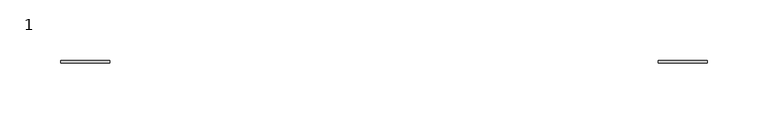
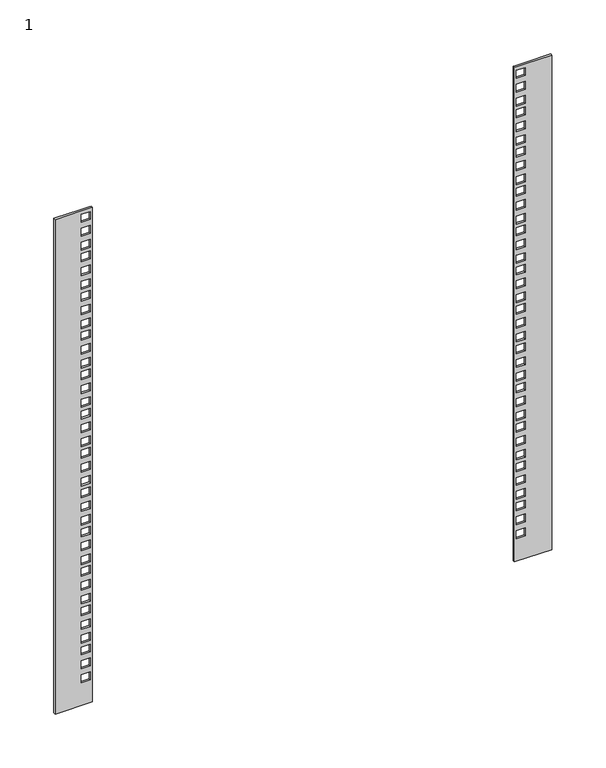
"""IFC4 building model written with IfcOpenShell, lengths in millimetres: proxy geometry, 1 : 12U 450мм стеклянная дверь."""

from ifc_helpers import new_model, si_unit, origin, place, context, project, spatial, faceted_brep, source, transform, mapped, element, save


def proxy_1_a4bd9ef0(model_context):
    return source(origin(), model_context, "Body", "Brep", [
        faceted_brep([(225.3, -177.6777479, 579.4675), (225.3, -179.6777479, 579.4675), (227.55, -179.6777479, 579.4675), (237.05, -179.6777479, 579.4675), (265.3, -179.6777479, 579.4675), (265.3, -177.6777479, 579.4675), (237.05, -177.6777479, 579.4675), (227.55, -177.6777479, 579.4675), (265.3, -177.6777479, 20.4675), (265.3, -179.6777479, 20.4675), (225.3, -179.6777479, 20.4675), (225.3, -177.6777479, 20.4675), (227.55, -179.6777479, 55.0175), (237.05, -179.6777479, 55.0175), (237.05, -179.6777479, 46.0675), (227.55, -179.6777479, 46.0675), (227.55, -179.6777479, 70.6675), (237.05, -179.6777479, 70.6675), (237.05, -179.6777479, 61.7175), (227.55, -179.6777479, 61.7175), (227.55, -179.6777479, 86.3175), (237.05, -179.6777479, 86.3175), (237.05, -179.6777479, 77.3675), (227.55, -179.6777479, 77.3675), (237.05, -179.6777479, 99.4675), (237.05, -179.6777479, 90.5175), (227.55, -179.6777479, 90.5175), (227.55, -179.6777479, 99.4675), (237.05, -179.6777479, 115.1175), (237.05, -179.6777479, 106.1675), (227.55, -179.6777479, 106.1675), (227.55, -179.6777479, 115.1175), (237.05, -179.6777479, 130.7675), (237.05, -179.6777479, 121.8175), (227.55, -179.6777479, 121.8175), (227.55, -179.6777479, 130.7675), (237.05, -179.6777479, 143.9175), (237.05, -179.6777479, 134.9675), (227.55, -179.6777479, 134.9675), (227.55, -179.6777479, 143.9175), (237.05, -179.6777479, 159.5675), (237.05, -179.6777479, 150.6175), (227.55, -179.6777479, 150.6175), (227.55, -179.6777479, 159.5675), (237.05, -179.6777479, 175.2175), (237.05, -179.6777479, 166.2675), (227.55, -179.6777479, 166.2675), (227.55, -179.6777479, 175.2175), (237.05, -179.6777479, 188.3675), (237.05, -179.6777479, 179.4175), (227.55, -179.6777479, 179.4175), (227.55, -179.6777479, 188.3675), (237.05, -179.6777479, 204.0175), (237.05, -179.6777479, 195.0675), (227.55, -179.6777479, 195.0675), (227.55, -179.6777479, 204.0175), (237.05, -179.6777479, 219.6675), (237.05, -179.6777479, 210.7175), (227.55, -179.6777479, 210.7175), (227.55, -179.6777479, 219.6675), (237.05, -179.6777479, 232.8175), (237.05, -179.6777479, 223.8675), (227.55, -179.6777479, 223.8675), (227.55, -179.6777479, 232.8175), (237.05, -179.6777479, 248.4675), (237.05, -179.6777479, 239.5175), (227.55, -179.6777479, 239.5175), (227.55, -179.6777479, 248.4675), (237.05, -179.6777479, 264.1175), (237.05, -179.6777479, 255.1675), (227.55, -179.6777479, 255.1675), (227.55, -179.6777479, 264.1175), (237.05, -179.6777479, 277.2675), (237.05, -179.6777479, 268.3175), (227.55, -179.6777479, 268.3175), (227.55, -179.6777479, 277.2675), (237.05, -179.6777479, 292.9175), (237.05, -179.6777479, 283.9675), (227.55, -179.6777479, 283.9675), (227.55, -179.6777479, 292.9175), (237.05, -179.6777479, 308.5675), (237.05, -179.6777479, 299.6175), (227.55, -179.6777479, 299.6175), (227.55, -179.6777479, 308.5675), (237.05, -179.6777479, 321.7175), (237.05, -179.6777479, 312.7675), (227.55, -179.6777479, 312.7675), (227.55, -179.6777479, 321.7175), (237.05, -179.6777479, 337.3675), (237.05, -179.6777479, 328.4175), (227.55, -179.6777479, 328.4175), (227.55, -179.6777479, 337.3675), (237.05, -179.6777479, 353.0175), (237.05, -179.6777479, 344.0675), (227.55, -179.6777479, 344.0675), (227.55, -179.6777479, 353.0175), (237.05, -179.6777479, 366.1675), (237.05, -179.6777479, 357.2175), (227.55, -179.6777479, 357.2175), (227.55, -179.6777479, 366.1675), (237.05, -179.6777479, 381.8175), (237.05, -179.6777479, 372.8675), (227.55, -179.6777479, 372.8675), (227.55, -179.6777479, 381.8175), (237.05, -179.6777479, 397.4675), (237.05, -179.6777479, 388.5175), (227.55, -179.6777479, 388.5175), (227.55, -179.6777479, 397.4675), (237.05, -179.6777479, 410.6175), (237.05, -179.6777479, 401.6675), (227.55, -179.6777479, 401.6675), (227.55, -179.6777479, 410.6175), (237.05, -179.6777479, 426.2675), (237.05, -179.6777479, 417.3175), (227.55, -179.6777479, 417.3175), (227.55, -179.6777479, 426.2675), (237.05, -179.6777479, 441.9175), (237.05, -179.6777479, 432.9675), (227.55, -179.6777479, 432.9675), (227.55, -179.6777479, 441.9175), (237.05, -179.6777479, 455.0675), (237.05, -179.6777479, 446.1175), (227.55, -179.6777479, 446.1175), (227.55, -179.6777479, 455.0675), (237.05, -179.6777479, 470.7175), (237.05, -179.6777479, 461.7675), (227.55, -179.6777479, 461.7675), (227.55, -179.6777479, 470.7175), (237.05, -179.6777479, 486.3675), (237.05, -179.6777479, 477.4175), (227.55, -179.6777479, 477.4175), (227.55, -179.6777479, 486.3675), (237.05, -179.6777479, 499.5175), (237.05, -179.6777479, 490.5675), (227.55, -179.6777479, 490.5675), (227.55, -179.6777479, 499.5175), (237.05, -179.6777479, 515.1675), (237.05, -179.6777479, 506.2175), (227.55, -179.6777479, 506.2175), (227.55, -179.6777479, 515.1675), (237.05, -179.6777479, 530.8175), (237.05, -179.6777479, 521.8675), (227.55, -179.6777479, 521.8675), (227.55, -179.6777479, 530.8175), (237.05, -179.6777479, 543.9675), (237.05, -179.6777479, 535.0175), (227.55, -179.6777479, 535.0175), (227.55, -179.6777479, 543.9675), (237.05, -179.6777479, 559.6175), (237.05, -179.6777479, 550.6675), (227.55, -179.6777479, 550.6675), (227.55, -179.6777479, 559.6175), (237.05, -179.6777479, 575.2675), (237.05, -179.6777479, 566.3175), (227.55, -179.6777479, 566.3175), (227.55, -179.6777479, 575.2675), (237.05, -177.6777479, 55.0175), (227.55, -177.6777479, 55.0175), (227.55, -177.6777479, 46.0675), (237.05, -177.6777479, 46.0675), (237.05, -177.6777479, 70.6675), (227.55, -177.6777479, 70.6675), (227.55, -177.6777479, 61.7175), (237.05, -177.6777479, 61.7175), (237.05, -177.6777479, 86.3175), (227.55, -177.6777479, 86.3175), (227.55, -177.6777479, 77.3675), (237.05, -177.6777479, 77.3675), (237.05, -177.6777479, 90.5175), (237.05, -177.6777479, 99.4675), (227.55, -177.6777479, 99.4675), (227.55, -177.6777479, 90.5175), (237.05, -177.6777479, 106.1675), (237.05, -177.6777479, 115.1175), (227.55, -177.6777479, 115.1175), (227.55, -177.6777479, 106.1675), (237.05, -177.6777479, 121.8175), (237.05, -177.6777479, 130.7675), (227.55, -177.6777479, 130.7675), (227.55, -177.6777479, 121.8175), (237.05, -177.6777479, 134.9675), (237.05, -177.6777479, 143.9175), (227.55, -177.6777479, 143.9175), (227.55, -177.6777479, 134.9675), (237.05, -177.6777479, 150.6175), (237.05, -177.6777479, 159.5675), (227.55, -177.6777479, 159.5675), (227.55, -177.6777479, 150.6175), (237.05, -177.6777479, 166.2675), (237.05, -177.6777479, 175.2175), (227.55, -177.6777479, 175.2175), (227.55, -177.6777479, 166.2675), (237.05, -177.6777479, 179.4175), (237.05, -177.6777479, 188.3675), (227.55, -177.6777479, 188.3675), (227.55, -177.6777479, 179.4175), (237.05, -177.6777479, 195.0675), (237.05, -177.6777479, 204.0175), (227.55, -177.6777479, 204.0175), (227.55, -177.6777479, 195.0675), (237.05, -177.6777479, 210.7175), (237.05, -177.6777479, 219.6675), (227.55, -177.6777479, 219.6675), (227.55, -177.6777479, 210.7175), (237.05, -177.6777479, 223.8675), (237.05, -177.6777479, 232.8175), (227.55, -177.6777479, 232.8175), (227.55, -177.6777479, 223.8675), (237.05, -177.6777479, 239.5175), (237.05, -177.6777479, 248.4675), (227.55, -177.6777479, 248.4675), (227.55, -177.6777479, 239.5175), (237.05, -177.6777479, 255.1675), (237.05, -177.6777479, 264.1175), (227.55, -177.6777479, 264.1175), (227.55, -177.6777479, 255.1675), (237.05, -177.6777479, 268.3175), (237.05, -177.6777479, 277.2675), (227.55, -177.6777479, 277.2675), (227.55, -177.6777479, 268.3175), (237.05, -177.6777479, 283.9675), (237.05, -177.6777479, 292.9175), (227.55, -177.6777479, 292.9175), (227.55, -177.6777479, 283.9675), (237.05, -177.6777479, 299.6175), (237.05, -177.6777479, 308.5675), (227.55, -177.6777479, 308.5675), (227.55, -177.6777479, 299.6175), (237.05, -177.6777479, 312.7675), (237.05, -177.6777479, 321.7175), (227.55, -177.6777479, 321.7175), (227.55, -177.6777479, 312.7675), (237.05, -177.6777479, 328.4175), (237.05, -177.6777479, 337.3675), (227.55, -177.6777479, 337.3675), (227.55, -177.6777479, 328.4175), (237.05, -177.6777479, 344.0675), (237.05, -177.6777479, 353.0175), (227.55, -177.6777479, 353.0175), (227.55, -177.6777479, 344.0675), (237.05, -177.6777479, 357.2175), (237.05, -177.6777479, 366.1675), (227.55, -177.6777479, 366.1675), (227.55, -177.6777479, 357.2175), (237.05, -177.6777479, 372.8675), (237.05, -177.6777479, 381.8175), (227.55, -177.6777479, 381.8175), (227.55, -177.6777479, 372.8675), (237.05, -177.6777479, 388.5175), (237.05, -177.6777479, 397.4675), (227.55, -177.6777479, 397.4675), (227.55, -177.6777479, 388.5175), (237.05, -177.6777479, 401.6675), (237.05, -177.6777479, 410.6175), (227.55, -177.6777479, 410.6175), (227.55, -177.6777479, 401.6675), (237.05, -177.6777479, 417.3175), (237.05, -177.6777479, 426.2675), (227.55, -177.6777479, 426.2675), (227.55, -177.6777479, 417.3175), (237.05, -177.6777479, 432.9675), (237.05, -177.6777479, 441.9175), (227.55, -177.6777479, 441.9175), (227.55, -177.6777479, 432.9675), (237.05, -177.6777479, 446.1175), (237.05, -177.6777479, 455.0675), (227.55, -177.6777479, 455.0675), (227.55, -177.6777479, 446.1175), (237.05, -177.6777479, 461.7675), (237.05, -177.6777479, 470.7175), (227.55, -177.6777479, 470.7175), (227.55, -177.6777479, 461.7675), (237.05, -177.6777479, 477.4175), (237.05, -177.6777479, 486.3675), (227.55, -177.6777479, 486.3675), (227.55, -177.6777479, 477.4175), (237.05, -177.6777479, 490.5675), (237.05, -177.6777479, 499.5175), (227.55, -177.6777479, 499.5175), (227.55, -177.6777479, 490.5675), (237.05, -177.6777479, 506.2175), (237.05, -177.6777479, 515.1675), (227.55, -177.6777479, 515.1675), (227.55, -177.6777479, 506.2175), (237.05, -177.6777479, 521.8675), (237.05, -177.6777479, 530.8175), (227.55, -177.6777479, 530.8175), (227.55, -177.6777479, 521.8675), (237.05, -177.6777479, 535.0175), (237.05, -177.6777479, 543.9675), (227.55, -177.6777479, 543.9675), (227.55, -177.6777479, 535.0175), (237.05, -177.6777479, 550.6675), (237.05, -177.6777479, 559.6175), (227.55, -177.6777479, 559.6175), (227.55, -177.6777479, 550.6675), (237.05, -177.6777479, 566.3175), (237.05, -177.6777479, 575.2675), (227.55, -177.6777479, 575.2675), (227.55, -177.6777479, 566.3175)], [[[0, 1, 2, 3, 4, 5, 6, 7]], [[8, 9, 10, 11]], [[5, 4, 9, 8]], [[10, 9, 4, 3, 2, 1], [12, 13, 14, 15], [16, 17, 18, 19], [20, 21, 22, 23], [24, 25, 26, 27], [28, 29, 30, 31], [32, 33, 34, 35], [36, 37, 38, 39], [40, 41, 42, 43], [44, 45, 46, 47], [48, 49, 50, 51], [52, 53, 54, 55], [56, 57, 58, 59], [60, 61, 62, 63], [64, 65, 66, 67], [68, 69, 70, 71], [72, 73, 74, 75], [76, 77, 78, 79], [80, 81, 82, 83], [84, 85, 86, 87], [88, 89, 90, 91], [92, 93, 94, 95], [96, 97, 98, 99], [100, 101, 102, 103], [104, 105, 106, 107], [108, 109, 110, 111], [112, 113, 114, 115], [116, 117, 118, 119], [120, 121, 122, 123], [124, 125, 126, 127], [128, 129, 130, 131], [132, 133, 134, 135], [136, 137, 138, 139], [140, 141, 142, 143], [144, 145, 146, 147], [148, 149, 150, 151], [152, 153, 154, 155]], [[1, 0, 11, 10]], [[8, 11, 0, 7, 6, 5], [156, 157, 158, 159], [160, 161, 162, 163], [164, 165, 166, 167], [168, 169, 170, 171], [172, 173, 174, 175], [176, 177, 178, 179], [180, 181, 182, 183], [184, 185, 186, 187], [188, 189, 190, 191], [192, 193, 194, 195], [196, 197, 198, 199], [200, 201, 202, 203], [204, 205, 206, 207], [208, 209, 210, 211], [212, 213, 214, 215], [216, 217, 218, 219], [220, 221, 222, 223], [224, 225, 226, 227], [228, 229, 230, 231], [232, 233, 234, 235], [236, 237, 238, 239], [240, 241, 242, 243], [244, 245, 246, 247], [248, 249, 250, 251], [252, 253, 254, 255], [256, 257, 258, 259], [260, 261, 262, 263], [264, 265, 266, 267], [268, 269, 270, 271], [272, 273, 274, 275], [276, 277, 278, 279], [280, 281, 282, 283], [284, 285, 286, 287], [288, 289, 290, 291], [292, 293, 294, 295], [296, 297, 298, 299]], [[156, 13, 12, 157]], [[157, 12, 15, 158]], [[158, 15, 14, 159]], [[13, 156, 159, 14]], [[160, 17, 16, 161]], [[161, 16, 19, 162]], [[162, 19, 18, 163]], [[17, 160, 163, 18]], [[164, 21, 20, 165]], [[165, 20, 23, 166]], [[166, 23, 22, 167]], [[21, 164, 167, 22]], [[168, 25, 24, 169]], [[25, 168, 171, 26]], [[26, 171, 170, 27]], [[27, 170, 169, 24]], [[172, 29, 28, 173]], [[29, 172, 175, 30]], [[30, 175, 174, 31]], [[31, 174, 173, 28]], [[176, 33, 32, 177]], [[33, 176, 179, 34]], [[34, 179, 178, 35]], [[35, 178, 177, 32]], [[180, 37, 36, 181]], [[37, 180, 183, 38]], [[38, 183, 182, 39]], [[39, 182, 181, 36]], [[184, 41, 40, 185]], [[41, 184, 187, 42]], [[42, 187, 186, 43]], [[43, 186, 185, 40]], [[188, 45, 44, 189]], [[45, 188, 191, 46]], [[46, 191, 190, 47]], [[47, 190, 189, 44]], [[192, 49, 48, 193]], [[49, 192, 195, 50]], [[50, 195, 194, 51]], [[51, 194, 193, 48]], [[196, 53, 52, 197]], [[53, 196, 199, 54]], [[54, 199, 198, 55]], [[55, 198, 197, 52]], [[200, 57, 56, 201]], [[57, 200, 203, 58]], [[58, 203, 202, 59]], [[59, 202, 201, 56]], [[204, 61, 60, 205]], [[61, 204, 207, 62]], [[62, 207, 206, 63]], [[63, 206, 205, 60]], [[208, 65, 64, 209]], [[65, 208, 211, 66]], [[66, 211, 210, 67]], [[67, 210, 209, 64]], [[212, 69, 68, 213]], [[69, 212, 215, 70]], [[70, 215, 214, 71]], [[71, 214, 213, 68]], [[216, 73, 72, 217]], [[73, 216, 219, 74]], [[74, 219, 218, 75]], [[75, 218, 217, 72]], [[220, 77, 76, 221]], [[77, 220, 223, 78]], [[78, 223, 222, 79]], [[79, 222, 221, 76]], [[224, 81, 80, 225]], [[81, 224, 227, 82]], [[82, 227, 226, 83]], [[83, 226, 225, 80]], [[228, 85, 84, 229]], [[85, 228, 231, 86]], [[86, 231, 230, 87]], [[87, 230, 229, 84]], [[232, 89, 88, 233]], [[89, 232, 235, 90]], [[90, 235, 234, 91]], [[91, 234, 233, 88]], [[236, 93, 92, 237]], [[93, 236, 239, 94]], [[94, 239, 238, 95]], [[95, 238, 237, 92]], [[240, 97, 96, 241]], [[97, 240, 243, 98]], [[98, 243, 242, 99]], [[99, 242, 241, 96]], [[244, 101, 100, 245]], [[101, 244, 247, 102]], [[102, 247, 246, 103]], [[103, 246, 245, 100]], [[248, 105, 104, 249]], [[105, 248, 251, 106]], [[106, 251, 250, 107]], [[107, 250, 249, 104]], [[252, 109, 108, 253]], [[109, 252, 255, 110]], [[110, 255, 254, 111]], [[111, 254, 253, 108]], [[256, 113, 112, 257]], [[113, 256, 259, 114]], [[114, 259, 258, 115]], [[115, 258, 257, 112]], [[260, 117, 116, 261]], [[117, 260, 263, 118]], [[118, 263, 262, 119]], [[119, 262, 261, 116]], [[264, 121, 120, 265]], [[121, 264, 267, 122]], [[122, 267, 266, 123]], [[123, 266, 265, 120]], [[268, 125, 124, 269]], [[125, 268, 271, 126]], [[126, 271, 270, 127]], [[127, 270, 269, 124]], [[272, 129, 128, 273]], [[129, 272, 275, 130]], [[130, 275, 274, 131]], [[131, 274, 273, 128]], [[276, 133, 132, 277]], [[133, 276, 279, 134]], [[134, 279, 278, 135]], [[135, 278, 277, 132]], [[280, 137, 136, 281]], [[137, 280, 283, 138]], [[138, 283, 282, 139]], [[139, 282, 281, 136]], [[284, 141, 140, 285]], [[141, 284, 287, 142]], [[142, 287, 286, 143]], [[143, 286, 285, 140]], [[288, 145, 144, 289]], [[145, 288, 291, 146]], [[146, 291, 290, 147]], [[147, 290, 289, 144]], [[292, 149, 148, 293]], [[149, 292, 295, 150]], [[150, 295, 294, 151]], [[151, 294, 293, 148]], [[296, 153, 152, 297]], [[153, 296, 299, 154]], [[154, 299, 298, 155]], [[155, 298, 297, 152]]]),
        faceted_brep([(-265.7, -177.6777479, 579.4675), (-265.7, -179.6777479, 579.4675), (-237.45, -179.6777479, 579.4675), (-227.95, -179.6777479, 579.4675), (-225.7, -179.6777479, 579.4675), (-225.7, -177.6777479, 579.4675), (-227.95, -177.6777479, 579.4675), (-237.45, -177.6777479, 579.4675), (-265.7, -177.6777479, 20.4675), (-225.7, -177.6777479, 20.4675), (-225.7, -179.6777479, 20.4675), (-265.7, -179.6777479, 20.4675), (-237.45, -179.6777479, 55.0175), (-227.95, -179.6777479, 55.0175), (-227.95, -179.6777479, 46.0675), (-237.45, -179.6777479, 46.0675), (-237.45, -179.6777479, 70.6675), (-227.95, -179.6777479, 70.6675), (-227.95, -179.6777479, 61.7175), (-237.45, -179.6777479, 61.7175), (-237.45, -179.6777479, 86.3175), (-227.95, -179.6777479, 86.3175), (-227.95, -179.6777479, 77.3675), (-237.45, -179.6777479, 77.3675), (-237.45, -179.6777479, 90.5175), (-237.45, -179.6777479, 99.4675), (-227.95, -179.6777479, 99.4675), (-227.95, -179.6777479, 90.5175), (-237.45, -179.6777479, 106.1675), (-237.45, -179.6777479, 115.1175), (-227.95, -179.6777479, 115.1175), (-227.95, -179.6777479, 106.1675), (-237.45, -179.6777479, 121.8175), (-237.45, -179.6777479, 130.7675), (-227.95, -179.6777479, 130.7675), (-227.95, -179.6777479, 121.8175), (-237.45, -179.6777479, 134.9675), (-237.45, -179.6777479, 143.9175), (-227.95, -179.6777479, 143.9175), (-227.95, -179.6777479, 134.9675), (-237.45, -179.6777479, 150.6175), (-237.45, -179.6777479, 159.5675), (-227.95, -179.6777479, 159.5675), (-227.95, -179.6777479, 150.6175), (-237.45, -179.6777479, 166.2675), (-237.45, -179.6777479, 175.2175), (-227.95, -179.6777479, 175.2175), (-227.95, -179.6777479, 166.2675), (-237.45, -179.6777479, 179.4175), (-237.45, -179.6777479, 188.3675), (-227.95, -179.6777479, 188.3675), (-227.95, -179.6777479, 179.4175), (-237.45, -179.6777479, 195.0675), (-237.45, -179.6777479, 204.0175), (-227.95, -179.6777479, 204.0175), (-227.95, -179.6777479, 195.0675), (-237.45, -179.6777479, 210.7175), (-237.45, -179.6777479, 219.6675), (-227.95, -179.6777479, 219.6675), (-227.95, -179.6777479, 210.7175), (-237.45, -179.6777479, 223.8675), (-237.45, -179.6777479, 232.8175), (-227.95, -179.6777479, 232.8175), (-227.95, -179.6777479, 223.8675), (-237.45, -179.6777479, 239.5175), (-237.45, -179.6777479, 248.4675), (-227.95, -179.6777479, 248.4675), (-227.95, -179.6777479, 239.5175), (-237.45, -179.6777479, 255.1675), (-237.45, -179.6777479, 264.1175), (-227.95, -179.6777479, 264.1175), (-227.95, -179.6777479, 255.1675), (-237.45, -179.6777479, 268.3175), (-237.45, -179.6777479, 277.2675), (-227.95, -179.6777479, 277.2675), (-227.95, -179.6777479, 268.3175), (-237.45, -179.6777479, 283.9675), (-237.45, -179.6777479, 292.9175), (-227.95, -179.6777479, 292.9175), (-227.95, -179.6777479, 283.9675), (-237.45, -179.6777479, 299.6175), (-237.45, -179.6777479, 308.5675), (-227.95, -179.6777479, 308.5675), (-227.95, -179.6777479, 299.6175), (-237.45, -179.6777479, 312.7675), (-237.45, -179.6777479, 321.7175), (-227.95, -179.6777479, 321.7175), (-227.95, -179.6777479, 312.7675), (-237.45, -179.6777479, 328.4175), (-237.45, -179.6777479, 337.3675), (-227.95, -179.6777479, 337.3675), (-227.95, -179.6777479, 328.4175), (-237.45, -179.6777479, 344.0675), (-237.45, -179.6777479, 353.0175), (-227.95, -179.6777479, 353.0175), (-227.95, -179.6777479, 344.0675), (-237.45, -179.6777479, 357.2175), (-237.45, -179.6777479, 366.1675), (-227.95, -179.6777479, 366.1675), (-227.95, -179.6777479, 357.2175), (-237.45, -179.6777479, 372.8675), (-237.45, -179.6777479, 381.8175), (-227.95, -179.6777479, 381.8175), (-227.95, -179.6777479, 372.8675), (-237.45, -179.6777479, 388.5175), (-237.45, -179.6777479, 397.4675), (-227.95, -179.6777479, 397.4675), (-227.95, -179.6777479, 388.5175), (-237.45, -179.6777479, 401.6675), (-237.45, -179.6777479, 410.6175), (-227.95, -179.6777479, 410.6175), (-227.95, -179.6777479, 401.6675), (-237.45, -179.6777479, 417.3175), (-237.45, -179.6777479, 426.2675), (-227.95, -179.6777479, 426.2675), (-227.95, -179.6777479, 417.3175), (-237.45, -179.6777479, 432.9675), (-237.45, -179.6777479, 441.9175), (-227.95, -179.6777479, 441.9175), (-227.95, -179.6777479, 432.9675), (-237.45, -179.6777479, 446.1175), (-237.45, -179.6777479, 455.0675), (-227.95, -179.6777479, 455.0675), (-227.95, -179.6777479, 446.1175), (-237.45, -179.6777479, 461.7675), (-237.45, -179.6777479, 470.7175), (-227.95, -179.6777479, 470.7175), (-227.95, -179.6777479, 461.7675), (-237.45, -179.6777479, 477.4175), (-237.45, -179.6777479, 486.3675), (-227.95, -179.6777479, 486.3675), (-227.95, -179.6777479, 477.4175), (-237.45, -179.6777479, 490.5675), (-237.45, -179.6777479, 499.5175), (-227.95, -179.6777479, 499.5175), (-227.95, -179.6777479, 490.5675), (-237.45, -179.6777479, 506.2175), (-237.45, -179.6777479, 515.1675), (-227.95, -179.6777479, 515.1675), (-227.95, -179.6777479, 506.2175), (-237.45, -179.6777479, 521.8675), (-237.45, -179.6777479, 530.8175), (-227.95, -179.6777479, 530.8175), (-227.95, -179.6777479, 521.8675), (-237.45, -179.6777479, 535.0175), (-237.45, -179.6777479, 543.9675), (-227.95, -179.6777479, 543.9675), (-227.95, -179.6777479, 535.0175), (-237.45, -179.6777479, 550.6675), (-237.45, -179.6777479, 559.6175), (-227.95, -179.6777479, 559.6175), (-227.95, -179.6777479, 550.6675), (-237.45, -179.6777479, 566.3175), (-237.45, -179.6777479, 575.2675), (-227.95, -179.6777479, 575.2675), (-227.95, -179.6777479, 566.3175), (-227.95, -177.6777479, 55.0175), (-237.45, -177.6777479, 55.0175), (-237.45, -177.6777479, 46.0675), (-227.95, -177.6777479, 46.0675), (-227.95, -177.6777479, 70.6675), (-237.45, -177.6777479, 70.6675), (-237.45, -177.6777479, 61.7175), (-227.95, -177.6777479, 61.7175), (-227.95, -177.6777479, 86.3175), (-237.45, -177.6777479, 86.3175), (-237.45, -177.6777479, 77.3675), (-227.95, -177.6777479, 77.3675), (-237.45, -177.6777479, 99.4675), (-237.45, -177.6777479, 90.5175), (-227.95, -177.6777479, 90.5175), (-227.95, -177.6777479, 99.4675), (-237.45, -177.6777479, 115.1175), (-237.45, -177.6777479, 106.1675), (-227.95, -177.6777479, 106.1675), (-227.95, -177.6777479, 115.1175), (-237.45, -177.6777479, 130.7675), (-237.45, -177.6777479, 121.8175), (-227.95, -177.6777479, 121.8175), (-227.95, -177.6777479, 130.7675), (-237.45, -177.6777479, 143.9175), (-237.45, -177.6777479, 134.9675), (-227.95, -177.6777479, 134.9675), (-227.95, -177.6777479, 143.9175), (-237.45, -177.6777479, 159.5675), (-237.45, -177.6777479, 150.6175), (-227.95, -177.6777479, 150.6175), (-227.95, -177.6777479, 159.5675), (-237.45, -177.6777479, 175.2175), (-237.45, -177.6777479, 166.2675), (-227.95, -177.6777479, 166.2675), (-227.95, -177.6777479, 175.2175), (-237.45, -177.6777479, 188.3675), (-237.45, -177.6777479, 179.4175), (-227.95, -177.6777479, 179.4175), (-227.95, -177.6777479, 188.3675), (-237.45, -177.6777479, 204.0175), (-237.45, -177.6777479, 195.0675), (-227.95, -177.6777479, 195.0675), (-227.95, -177.6777479, 204.0175), (-237.45, -177.6777479, 219.6675), (-237.45, -177.6777479, 210.7175), (-227.95, -177.6777479, 210.7175), (-227.95, -177.6777479, 219.6675), (-237.45, -177.6777479, 232.8175), (-237.45, -177.6777479, 223.8675), (-227.95, -177.6777479, 223.8675), (-227.95, -177.6777479, 232.8175), (-237.45, -177.6777479, 248.4675), (-237.45, -177.6777479, 239.5175), (-227.95, -177.6777479, 239.5175), (-227.95, -177.6777479, 248.4675), (-237.45, -177.6777479, 264.1175), (-237.45, -177.6777479, 255.1675), (-227.95, -177.6777479, 255.1675), (-227.95, -177.6777479, 264.1175), (-237.45, -177.6777479, 277.2675), (-237.45, -177.6777479, 268.3175), (-227.95, -177.6777479, 268.3175), (-227.95, -177.6777479, 277.2675), (-237.45, -177.6777479, 292.9175), (-237.45, -177.6777479, 283.9675), (-227.95, -177.6777479, 283.9675), (-227.95, -177.6777479, 292.9175), (-237.45, -177.6777479, 308.5675), (-237.45, -177.6777479, 299.6175), (-227.95, -177.6777479, 299.6175), (-227.95, -177.6777479, 308.5675), (-237.45, -177.6777479, 321.7175), (-237.45, -177.6777479, 312.7675), (-227.95, -177.6777479, 312.7675), (-227.95, -177.6777479, 321.7175), (-237.45, -177.6777479, 337.3675), (-237.45, -177.6777479, 328.4175), (-227.95, -177.6777479, 328.4175), (-227.95, -177.6777479, 337.3675), (-237.45, -177.6777479, 353.0175), (-237.45, -177.6777479, 344.0675), (-227.95, -177.6777479, 344.0675), (-227.95, -177.6777479, 353.0175), (-237.45, -177.6777479, 366.1675), (-237.45, -177.6777479, 357.2175), (-227.95, -177.6777479, 357.2175), (-227.95, -177.6777479, 366.1675), (-237.45, -177.6777479, 381.8175), (-237.45, -177.6777479, 372.8675), (-227.95, -177.6777479, 372.8675), (-227.95, -177.6777479, 381.8175), (-237.45, -177.6777479, 397.4675), (-237.45, -177.6777479, 388.5175), (-227.95, -177.6777479, 388.5175), (-227.95, -177.6777479, 397.4675), (-237.45, -177.6777479, 410.6175), (-237.45, -177.6777479, 401.6675), (-227.95, -177.6777479, 401.6675), (-227.95, -177.6777479, 410.6175), (-237.45, -177.6777479, 426.2675), (-237.45, -177.6777479, 417.3175), (-227.95, -177.6777479, 417.3175), (-227.95, -177.6777479, 426.2675), (-237.45, -177.6777479, 441.9175), (-237.45, -177.6777479, 432.9675), (-227.95, -177.6777479, 432.9675), (-227.95, -177.6777479, 441.9175), (-237.45, -177.6777479, 455.0675), (-237.45, -177.6777479, 446.1175), (-227.95, -177.6777479, 446.1175), (-227.95, -177.6777479, 455.0675), (-237.45, -177.6777479, 470.7175), (-237.45, -177.6777479, 461.7675), (-227.95, -177.6777479, 461.7675), (-227.95, -177.6777479, 470.7175), (-237.45, -177.6777479, 486.3675), (-237.45, -177.6777479, 477.4175), (-227.95, -177.6777479, 477.4175), (-227.95, -177.6777479, 486.3675), (-237.45, -177.6777479, 499.5175), (-237.45, -177.6777479, 490.5675), (-227.95, -177.6777479, 490.5675), (-227.95, -177.6777479, 499.5175), (-237.45, -177.6777479, 515.1675), (-237.45, -177.6777479, 506.2175), (-227.95, -177.6777479, 506.2175), (-227.95, -177.6777479, 515.1675), (-237.45, -177.6777479, 530.8175), (-237.45, -177.6777479, 521.8675), (-227.95, -177.6777479, 521.8675), (-227.95, -177.6777479, 530.8175), (-237.45, -177.6777479, 543.9675), (-237.45, -177.6777479, 535.0175), (-227.95, -177.6777479, 535.0175), (-227.95, -177.6777479, 543.9675), (-237.45, -177.6777479, 559.6175), (-237.45, -177.6777479, 550.6675), (-227.95, -177.6777479, 550.6675), (-227.95, -177.6777479, 559.6175), (-237.45, -177.6777479, 575.2675), (-237.45, -177.6777479, 566.3175), (-227.95, -177.6777479, 566.3175), (-227.95, -177.6777479, 575.2675)], [[[0, 1, 2, 3, 4, 5, 6, 7]], [[8, 9, 10, 11]], [[1, 0, 8, 11]], [[11, 10, 4, 3, 2, 1], [12, 13, 14, 15], [16, 17, 18, 19], [20, 21, 22, 23], [24, 25, 26, 27], [28, 29, 30, 31], [32, 33, 34, 35], [36, 37, 38, 39], [40, 41, 42, 43], [44, 45, 46, 47], [48, 49, 50, 51], [52, 53, 54, 55], [56, 57, 58, 59], [60, 61, 62, 63], [64, 65, 66, 67], [68, 69, 70, 71], [72, 73, 74, 75], [76, 77, 78, 79], [80, 81, 82, 83], [84, 85, 86, 87], [88, 89, 90, 91], [92, 93, 94, 95], [96, 97, 98, 99], [100, 101, 102, 103], [104, 105, 106, 107], [108, 109, 110, 111], [112, 113, 114, 115], [116, 117, 118, 119], [120, 121, 122, 123], [124, 125, 126, 127], [128, 129, 130, 131], [132, 133, 134, 135], [136, 137, 138, 139], [140, 141, 142, 143], [144, 145, 146, 147], [148, 149, 150, 151], [152, 153, 154, 155]], [[5, 4, 10, 9]], [[9, 8, 0, 7, 6, 5], [156, 157, 158, 159], [160, 161, 162, 163], [164, 165, 166, 167], [168, 169, 170, 171], [172, 173, 174, 175], [176, 177, 178, 179], [180, 181, 182, 183], [184, 185, 186, 187], [188, 189, 190, 191], [192, 193, 194, 195], [196, 197, 198, 199], [200, 201, 202, 203], [204, 205, 206, 207], [208, 209, 210, 211], [212, 213, 214, 215], [216, 217, 218, 219], [220, 221, 222, 223], [224, 225, 226, 227], [228, 229, 230, 231], [232, 233, 234, 235], [236, 237, 238, 239], [240, 241, 242, 243], [244, 245, 246, 247], [248, 249, 250, 251], [252, 253, 254, 255], [256, 257, 258, 259], [260, 261, 262, 263], [264, 265, 266, 267], [268, 269, 270, 271], [272, 273, 274, 275], [276, 277, 278, 279], [280, 281, 282, 283], [284, 285, 286, 287], [288, 289, 290, 291], [292, 293, 294, 295], [296, 297, 298, 299]], [[156, 13, 12, 157]], [[13, 156, 159, 14]], [[14, 159, 158, 15]], [[15, 158, 157, 12]], [[160, 17, 16, 161]], [[17, 160, 163, 18]], [[18, 163, 162, 19]], [[19, 162, 161, 16]], [[164, 21, 20, 165]], [[21, 164, 167, 22]], [[22, 167, 166, 23]], [[23, 166, 165, 20]], [[168, 25, 24, 169]], [[169, 24, 27, 170]], [[170, 27, 26, 171]], [[25, 168, 171, 26]], [[172, 29, 28, 173]], [[173, 28, 31, 174]], [[174, 31, 30, 175]], [[29, 172, 175, 30]], [[176, 33, 32, 177]], [[177, 32, 35, 178]], [[178, 35, 34, 179]], [[33, 176, 179, 34]], [[180, 37, 36, 181]], [[181, 36, 39, 182]], [[182, 39, 38, 183]], [[37, 180, 183, 38]], [[184, 41, 40, 185]], [[185, 40, 43, 186]], [[186, 43, 42, 187]], [[41, 184, 187, 42]], [[188, 45, 44, 189]], [[189, 44, 47, 190]], [[190, 47, 46, 191]], [[45, 188, 191, 46]], [[192, 49, 48, 193]], [[193, 48, 51, 194]], [[194, 51, 50, 195]], [[49, 192, 195, 50]], [[196, 53, 52, 197]], [[197, 52, 55, 198]], [[198, 55, 54, 199]], [[53, 196, 199, 54]], [[200, 57, 56, 201]], [[201, 56, 59, 202]], [[202, 59, 58, 203]], [[57, 200, 203, 58]], [[204, 61, 60, 205]], [[205, 60, 63, 206]], [[206, 63, 62, 207]], [[61, 204, 207, 62]], [[208, 65, 64, 209]], [[209, 64, 67, 210]], [[210, 67, 66, 211]], [[65, 208, 211, 66]], [[212, 69, 68, 213]], [[213, 68, 71, 214]], [[214, 71, 70, 215]], [[69, 212, 215, 70]], [[216, 73, 72, 217]], [[217, 72, 75, 218]], [[218, 75, 74, 219]], [[73, 216, 219, 74]], [[220, 77, 76, 221]], [[221, 76, 79, 222]], [[222, 79, 78, 223]], [[77, 220, 223, 78]], [[224, 81, 80, 225]], [[225, 80, 83, 226]], [[226, 83, 82, 227]], [[81, 224, 227, 82]], [[228, 85, 84, 229]], [[229, 84, 87, 230]], [[230, 87, 86, 231]], [[85, 228, 231, 86]], [[232, 89, 88, 233]], [[233, 88, 91, 234]], [[234, 91, 90, 235]], [[89, 232, 235, 90]], [[236, 93, 92, 237]], [[237, 92, 95, 238]], [[238, 95, 94, 239]], [[93, 236, 239, 94]], [[240, 97, 96, 241]], [[241, 96, 99, 242]], [[242, 99, 98, 243]], [[97, 240, 243, 98]], [[244, 101, 100, 245]], [[245, 100, 103, 246]], [[246, 103, 102, 247]], [[101, 244, 247, 102]], [[248, 105, 104, 249]], [[249, 104, 107, 250]], [[250, 107, 106, 251]], [[105, 248, 251, 106]], [[252, 109, 108, 253]], [[253, 108, 111, 254]], [[254, 111, 110, 255]], [[109, 252, 255, 110]], [[256, 113, 112, 257]], [[257, 112, 115, 258]], [[258, 115, 114, 259]], [[113, 256, 259, 114]], [[260, 117, 116, 261]], [[261, 116, 119, 262]], [[262, 119, 118, 263]], [[117, 260, 263, 118]], [[264, 121, 120, 265]], [[265, 120, 123, 266]], [[266, 123, 122, 267]], [[121, 264, 267, 122]], [[268, 125, 124, 269]], [[269, 124, 127, 270]], [[270, 127, 126, 271]], [[125, 268, 271, 126]], [[272, 129, 128, 273]], [[273, 128, 131, 274]], [[274, 131, 130, 275]], [[129, 272, 275, 130]], [[276, 133, 132, 277]], [[277, 132, 135, 278]], [[278, 135, 134, 279]], [[133, 276, 279, 134]], [[280, 137, 136, 281]], [[281, 136, 139, 282]], [[282, 139, 138, 283]], [[137, 280, 283, 138]], [[284, 141, 140, 285]], [[285, 140, 143, 286]], [[286, 143, 142, 287]], [[141, 284, 287, 142]], [[288, 145, 144, 289]], [[289, 144, 147, 290]], [[290, 147, 146, 291]], [[145, 288, 291, 146]], [[292, 149, 148, 293]], [[293, 148, 151, 294]], [[294, 151, 150, 295]], [[149, 292, 295, 150]], [[296, 153, 152, 297]], [[297, 152, 155, 298]], [[298, 155, 154, 299]], [[153, 296, 299, 154]]]),
    ])


if __name__ == "__main__":
    model = new_model("IFC4")
    model_context = context("Model", 3, world=origin())
    ifc_project = project(units=[si_unit("LENGTHUNIT", "METRE", prefix="MILLI")], contexts=[model_context])
    site = spatial("IfcSite", under=ifc_project)
    building = spatial("IfcBuilding", under=site)
    placement = place(None, origin())
    proxy_1_shape = proxy_1_a4bd9ef0(model_context)
    element("IfcBuildingElementProxy", 1, Name="1 : 12U 450мм стеклянная дверь", ObjectType="1 : 12U 450мм стеклянная дверь", at=placement, inside=building, context=model_context, shape_type="MappedRepresentation", body=[
        mapped(proxy_1_shape, transform((0.0, 0.0, 0.0), x_axis=(1.0, 0.0, 0.0), y_axis=(0.0, 1.0, 0.0), z_axis=(0.0, 0.0, 1.0))),
    ])
    save(model, "model.ifc")
